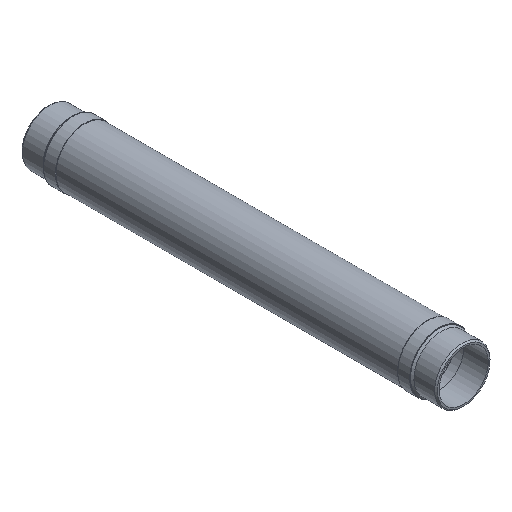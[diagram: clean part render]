
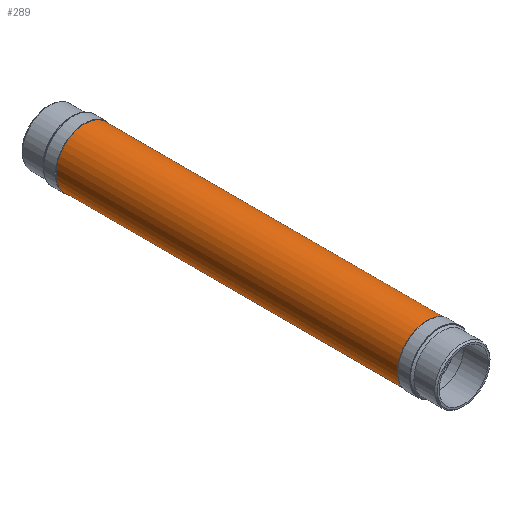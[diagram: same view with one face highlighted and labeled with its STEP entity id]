
A CAD part, isometric view. The second image highlights one B-rep face of the part: STEP entity #289.
In plain terms, the highlighted cylindrical face has radius 60.35 mm (diameter 120.701 mm), a full revolution.
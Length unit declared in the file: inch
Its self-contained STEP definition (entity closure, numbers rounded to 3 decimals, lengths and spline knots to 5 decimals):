
#34=FACE_BOUND('',#85,.T.);
#58=FACE_OUTER_BOUND('',#84,.T.);
#84=EDGE_LOOP('',(#204));
#85=EDGE_LOOP('',(#205));
#130=CIRCLE('',#321,2.376);
#131=CIRCLE('',#323,2.376);
#154=VERTEX_POINT('',#470);
#155=VERTEX_POINT('',#473);
#178=EDGE_CURVE('',#154,#154,#130,.T.);
#179=EDGE_CURVE('',#155,#155,#131,.T.);
#204=ORIENTED_EDGE('',*,*,#178,.T.);
#205=ORIENTED_EDGE('',*,*,#179,.T.);
#249=CYLINDRICAL_SURFACE('',#322,2.376);
#289=ADVANCED_FACE('',(#58,#34),#249,.T.);
#321=AXIS2_PLACEMENT_3D('',#471,#375,#376);
#322=AXIS2_PLACEMENT_3D('',#472,#377,#378);
#323=AXIS2_PLACEMENT_3D('',#474,#379,#380);
#375=DIRECTION('center_axis',(0.,1.,0.));
#376=DIRECTION('ref_axis',(-0.522,0.,0.853));
#377=DIRECTION('center_axis',(0.,1.,0.));
#378=DIRECTION('ref_axis',(-0.522,0.,0.853));
#379=DIRECTION('center_axis',(0.,-1.,0.));
#380=DIRECTION('ref_axis',(-0.522,0.,0.853));
#470=CARTESIAN_POINT('',(1.24009,2.,-2.02671));
#471=CARTESIAN_POINT('Origin',(0.,2.,0.));
#472=CARTESIAN_POINT('Origin',(0.,17.,0.));
#473=CARTESIAN_POINT('',(1.24009,32.,-2.02671));
#474=CARTESIAN_POINT('Origin',(0.,32.,0.));
